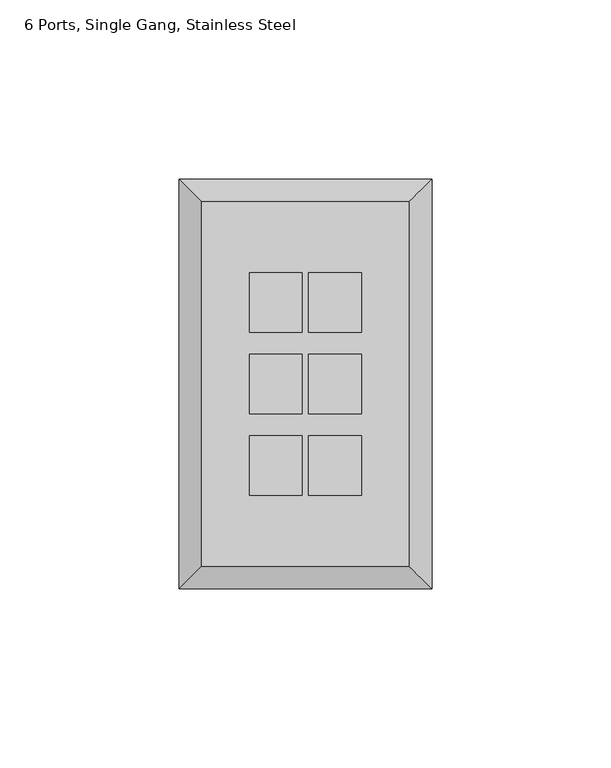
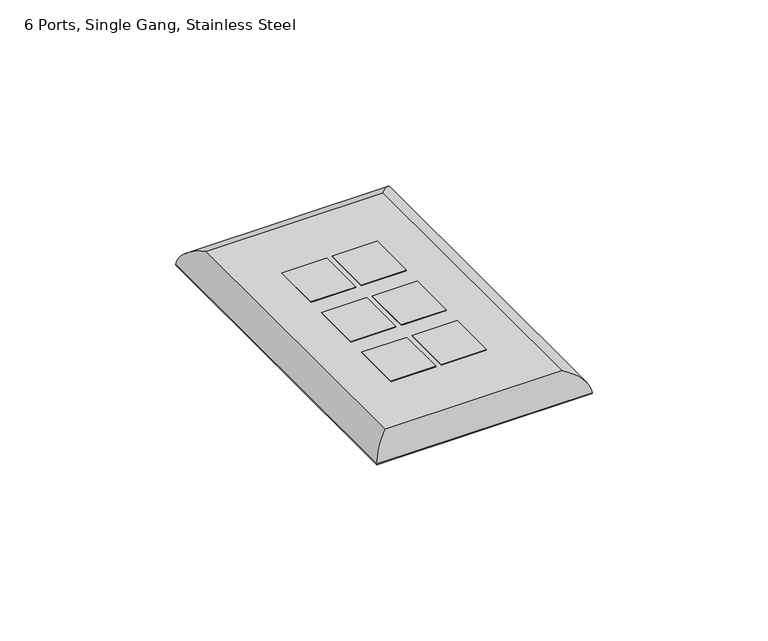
"""IFC4 building model written with IfcOpenShell, lengths in millimetres: electric appliance geometry, Data_Device-Work_Area-Leviton-QuickPort-Wallplate : 6 Ports, Single Gang, Stainless Steel."""

import ifcopenshell
import ifcopenshell.guid

model = None  # the IFC model being written
_history = None  # IfcOwnerHistory: only IFC2X3 demands one
_inside = {}  # id of a spatial element -> (the spatial element, [elements in it])
_under = {}  # id of a project, library or spatial element -> (it, [spatial elements below it])
_declared = {}  # id of a project -> (the project, [libraries it declares])
_typed = {}  # id of a type object -> (the type object, [elements of that type])
_made_of = {}  # id of a material, layer set ... -> (it, [elements and type objects made of it])


def new_model(schema):
    """Start an empty IFC model of exactly this schema.

    Asked for "IFC4X3", IfcOpenShell would pick the latest addendum, in which some entities
    have other attributes; the version numbers below select the first issue.
    IFC2X3 requires an IfcOwnerHistory on every rooted entity: one is made here for all.
    """
    global model, _history
    if schema == "IFC4X3":
        model = ifcopenshell.file(schema_version=(4, 3, 0, 0))
    else:
        model = ifcopenshell.file(schema=schema)
    _inside.clear()
    _under.clear()
    _declared.clear()
    _typed.clear()
    _made_of.clear()
    _history = None
    if model.schema == "IFC2X3":
        org = make("IfcOrganization", Name="unknown")
        user = make(
            "IfcPersonAndOrganization",
            ThePerson=make("IfcPerson", FamilyName="unknown"),
            TheOrganization=org,
        )
        app = make(
            "IfcApplication",
            ApplicationDeveloper=org,
            Version="unknown",
            ApplicationFullName="unknown",
            ApplicationIdentifier="unknown",
        )
        _history = make(
            "IfcOwnerHistory",
            OwningUser=user,
            OwningApplication=app,
            ChangeAction="ADDED",
            CreationDate=0,
        )
    return model


def make(cls, **values):
    """One entity of the class cls with the attributes given. An attribute that is None is left unset."""
    return model.create_entity(
        cls, **{name: value for name, value in values.items() if value is not None}
    )


def rooted(cls, **values):
    """An entity with a GlobalId (a new one), such as an element, a storey or a relation."""
    return make(cls, GlobalId=ifcopenshell.guid.new(), OwnerHistory=_history, **values)


def si_unit(unit_type, name, prefix=None):
    """IfcSIUnit, for example si_unit("LENGTHUNIT", "METRE", prefix="MILLI")."""
    return make("IfcSIUnit", UnitType=unit_type, Prefix=prefix, Name=name)


def assignment(units):
    """IfcUnitAssignment: the units of a project."""
    return None if units is None else make("IfcUnitAssignment", Units=units)


def point(xyz):
    """IfcCartesianPoint."""
    return None if xyz is None else make("IfcCartesianPoint", Coordinates=xyz)


def direction(xyz):
    """IfcDirection."""
    return None if xyz is None else make("IfcDirection", DirectionRatios=xyz)


def frame(location, z_axis=None, x_axis=None):
    """IfcAxis2Placement3D, a coordinate frame: its origin and axes. An axis left out is left unset."""
    return make(
        "IfcAxis2Placement3D",
        Location=point(location),
        Axis=direction(z_axis),
        RefDirection=direction(x_axis),
    )


def origin():
    """The frame at (0, 0, 0) with its axes left unset."""
    return frame((0.0, 0.0, 0.0))


def origin_with_axes():
    """The frame at (0, 0, 0) with the z axis (0, 0, 1) and the x axis (1, 0, 0) written out."""
    return frame((0.0, 0.0, 0.0), z_axis=(0.0, 0.0, 1.0), x_axis=(1.0, 0.0, 0.0))


def place(relative_to, where):
    """IfcLocalPlacement: puts the frame where relative to a parent placement (None: the world)."""
    return make(
        "IfcLocalPlacement", PlacementRelTo=relative_to, RelativePlacement=where
    )


def context(
    kind, dimensions, precision=None, world=None, true_north=None, identifier=None
):
    """IfcGeometricRepresentationContext, for example the 3D "Model" context."""
    return make(
        "IfcGeometricRepresentationContext",
        ContextIdentifier=identifier,
        ContextType=kind,
        CoordinateSpaceDimension=dimensions,
        Precision=precision,
        WorldCoordinateSystem=world,
        TrueNorth=true_north,
    )


def project(units=None, contexts=None):
    """IfcProject with its units and contexts."""
    return rooted(
        "IfcProject",
        Name="project",
        RepresentationContexts=contexts,
        UnitsInContext=assignment(units),
    )


def spatial(cls, under=None, at=None, **own):
    """A site, building, storey or space (cls), placed at a placement, below another one or the project."""
    s = rooted(cls, ObjectPlacement=at, **own)
    if under is not None:
        _under.setdefault(under.id(), (under, []))[1].append(s)
    return s


def polyline(points):
    """IfcPolyline through the points."""
    return make("IfcPolyline", Points=[point(p) for p in points])


def ellipse_curve(where, semi_axis1, semi_axis2):
    """IfcEllipse in the frame where."""
    return make(
        "IfcEllipse", Position=where, SemiAxis1=semi_axis1, SemiAxis2=semi_axis2
    )


def outline(outer, holes=None, kind="AREA"):
    """IfcArbitraryClosedProfileDef: a profile drawn as a closed curve; with holes, ...WithVoids."""
    if holes is None:
        return make("IfcArbitraryClosedProfileDef", ProfileType=kind, OuterCurve=outer)
    return make(
        "IfcArbitraryProfileDefWithVoids",
        ProfileType=kind,
        OuterCurve=outer,
        InnerCurves=holes,
    )


def extrude(swept, where, along, depth):
    """IfcExtrudedAreaSolid: the profile swept, set in the frame where, extruded along a direction by depth."""
    return make(
        "IfcExtrudedAreaSolid",
        SweptArea=swept,
        Position=where,
        ExtrudedDirection=direction(along),
        Depth=depth,
    )


def shape(context_of_items, identifier, shape_type, items):
    """IfcShapeRepresentation: the items that make up one representation, for example the "Body"."""
    return make(
        "IfcShapeRepresentation",
        ContextOfItems=context_of_items,
        RepresentationIdentifier=identifier,
        RepresentationType=shape_type,
        Items=items,
    )


def source(mapping_origin, context_of_items, identifier, shape_type, items):
    """IfcRepresentationMap: a shape defined once, which mapped items show again and again."""
    return make(
        "IfcRepresentationMap",
        MappingOrigin=mapping_origin,
        MappedRepresentation=shape(context_of_items, identifier, shape_type, items),
    )


def transform(
    local_origin,
    x_axis=None,
    y_axis=None,
    z_axis=None,
    scale=None,
    scale2=None,
    scale3=None,
    uniform=True,
):
    """IfcCartesianTransformationOperator3D, or its non-uniform kind. x_axis, y_axis, z_axis: its Axis1, 2, 3."""
    if uniform:
        return make(
            "IfcCartesianTransformationOperator3D",
            Axis1=direction(x_axis),
            Axis2=direction(y_axis),
            LocalOrigin=point(local_origin),
            Scale=scale,
            Axis3=direction(z_axis),
        )
    return make(
        "IfcCartesianTransformationOperator3DnonUniform",
        Axis1=direction(x_axis),
        Axis2=direction(y_axis),
        LocalOrigin=point(local_origin),
        Scale=scale,
        Axis3=direction(z_axis),
        Scale2=scale2,
        Scale3=scale3,
    )


def mapped(mapping_source, mapping_target):
    """IfcMappedItem: shows the shape of a source again, moved by a transform."""
    return make(
        "IfcMappedItem", MappingSource=mapping_source, MappingTarget=mapping_target
    )


def made_of(thing, what):
    """Note that an element or type object is made of a material, layer set ...; save() writes the relation."""
    if what is not None:
        _made_of.setdefault(what.id(), (what, []))[1].append(thing)
    return thing


def element(
    cls,
    number,
    at=None,
    inside=None,
    cuts=None,
    type_object=None,
    material=None,
    context=None,
    identifier="Body",
    shape_type=None,
    held_by="IfcProductDefinitionShape",
    body=None,
    shapes=None,
    **own,
):
    """One element of the class cls, such as IfcWall. Its Tag is "e" and its number.

    at: its placement. inside: the storey or other place that contains it. cuts: it is an
    opening in that element (IfcRelVoidsElement). A single representation is given by context,
    identifier, shape_type and body (its items); several are given by shapes. held_by: the class
    of the entity that holds the representations. save() writes the other relations.
    """
    e = rooted(cls, Tag="e%d" % number, ObjectPlacement=at, **own)
    if body is not None:
        shapes = [shape(context, identifier, shape_type, body)]
    if shapes is not None:
        e.Representation = make(held_by, Representations=shapes)
    if inside is not None:
        _inside.setdefault(inside.id(), (inside, []))[1].append(e)
    if cuts is not None:
        rooted(
            "IfcRelVoidsElement", RelatingBuildingElement=cuts, RelatedOpeningElement=e
        )
    if type_object is not None:
        _typed.setdefault(type_object.id(), (type_object, []))[1].append(e)
    return made_of(e, material)


def aggregate(whole, parts):
    """IfcRelAggregates: a whole, such as a stair, and the parts it consists of."""
    return rooted("IfcRelAggregates", RelatingObject=whole, RelatedObjects=parts)


def save(model, path):
    """Write the relations noted so far, then the file.

    IfcRelAggregates (storeys below a building ...), IfcRelContainedInSpatialStructure (elements
    in a storey), IfcRelDefinesByType, IfcRelAssociatesMaterial and IfcRelDeclares: one each for
    every whole, place, type object, material and project.
    """
    for whole, parts in _under.values():
        aggregate(whole, parts)
    for where, things in _inside.values():
        rooted(
            "IfcRelContainedInSpatialStructure",
            RelatedElements=things,
            RelatingStructure=where,
        )
    for kind, things in _typed.values():
        rooted("IfcRelDefinesByType", RelatedObjects=things, RelatingType=kind)
    for what, things in _made_of.values():
        rooted("IfcRelAssociatesMaterial", RelatedObjects=things, RelatingMaterial=what)
    for by, libraries in _declared.values():
        rooted("IfcRelDeclares", RelatingContext=by, RelatedDefinitions=libraries)
    model.write(path)


def plane_surface(at):
    """IfcPlane: the flat surface through the origin of the frame at, square to its z axis."""
    return make("IfcPlane", Position=at)


def cylinder_surface(at, radius):
    """IfcCylindricalSurface: all points at the distance radius from the z axis of the frame at."""
    return make("IfcCylindricalSurface", Position=at, Radius=radius)


def advanced_brep(points, edges, surfaces, faces):
    """IfcAdvancedBrep: a solid bounded by faces that lie on surfaces and meet in shared edges.

    An edge is (start, end): straight between two places in points (the first is 0);
    or (start, end, curve); or (start, end, curve, False) where it runs against its curve.
    A face is (place in surfaces, loops), or (place, loops, False) where it looks against
    its surface's normal. A loop lists edges by number (the first is 1), with a minus sign
    where the edge is run from its end to its start. The first loop is the outer one.
    """
    corners = [point(p) for p in points]
    vertices = [make("IfcVertexPoint", VertexGeometry=c) for c in corners]
    made = []
    for start, end, *more in edges:
        made.append(
            make(
                "IfcEdgeCurve",
                EdgeStart=vertices[start],
                EdgeEnd=vertices[end],
                EdgeGeometry=more[0] if more else make("IfcPolyline", Points=[corners[start], corners[end]]),
                SameSense=more[1] if len(more) > 1 else True,
            )
        )
    hull = []
    for where, loops, *sense in faces:
        bounds = []
        for j, loop in enumerate(loops):
            ring = [make("IfcOrientedEdge", EdgeElement=made[abs(k) - 1], Orientation=k > 0) for k in loop]
            bounds.append(
                make(
                    "IfcFaceOuterBound" if j == 0 else "IfcFaceBound",
                    Bound=make("IfcEdgeLoop", EdgeList=ring),
                    Orientation=True,
                )
            )
        hull.append(make("IfcAdvancedFace", Bounds=bounds, FaceSurface=surfaces[where], SameSense=sense[0] if sense else True))
    return make("IfcAdvancedBrep", Outer=make("IfcClosedShell", CfsFaces=hull))


def electric_appliance_6_ports_single_gang_stainless_steel_5ba1de0b(model_context):
    return source(origin(), model_context, "Body", "SolidModel", [
        extrude(outline(polyline([(-23.9268, 16.4465), (-23.9268, -0.0635), (-38.6588, -0.0635), (-38.6588, 16.4465), (-23.9268, 16.4465)])), origin_with_axes(), (0.0, 0.0, 1.0), 6.35),
        extrude(outline(polyline([(-23.9268, 39.1795), (-23.9268, 22.6695), (-38.6588, 22.6695), (-38.6588, 39.1795), (-23.9268, 39.1795)])), origin_with_axes(), (0.0, 0.0, 1.0), 6.35),
        extrude(outline(polyline([(-23.9268, -6.2865), (-23.9268, -22.7965), (-38.6588, -22.7965), (-38.6588, -6.2865), (-23.9268, -6.2865)])), origin_with_axes(), (0.0, 0.0, 1.0), 6.35),
        extrude(outline(polyline([(-7.3914, 16.4465), (-7.3914, -0.0635), (-22.1234, -0.0635), (-22.1234, 16.4465), (-7.3914, 16.4465)])), origin_with_axes(), (0.0, 0.0, 1.0), 6.35),
        extrude(outline(polyline([(-7.3914, 39.1795), (-7.3914, 22.6695), (-22.1234, 22.6695), (-22.1234, 39.1795), (-7.3914, 39.1795)])), origin_with_axes(), (0.0, 0.0, 1.0), 6.35),
        extrude(outline(polyline([(-7.3914, -6.2865), (-7.3914, -22.7965), (-22.1234, -22.7965), (-22.1234, -6.2865), (-7.3914, -6.2865)])), origin_with_axes(), (0.0, 0.0, 1.0), 6.35),
        advanced_brep(
        [(5.9309, -42.6085, 6.35), (5.9309, 58.9915, 6.35), (-51.9811, 58.9915, 6.35), (-51.9811, -42.6085, 6.35), (-38.6588, 39.1795, 6.35), (-23.9268, 39.1795, 6.35), (-23.9268, 22.6695, 6.35), (-38.6588, 22.6695, 6.35), (-38.6588, 16.4465, 6.35), (-23.9268, 16.4465, 6.35), (-23.9268, -0.0635, 6.35), (-38.6588, -0.0635, 6.35), (-38.6588, -6.2865, 6.35), (-23.9268, -6.2865, 6.35), (-23.9268, -22.7965, 6.35), (-38.6588, -22.7965, 6.35), (-22.1234, 39.1795, 6.35), (-7.3914, 39.1795, 6.35), (-7.3914, 22.6695, 6.35), (-22.1234, 22.6695, 6.35), (-22.1234, 16.4465, 6.35), (-7.3914, 16.4465, 6.35), (-7.3914, -0.0635, 6.35), (-22.1234, -0.0635, 6.35), (-22.1234, -6.2865, 6.35), (-7.3914, -6.2865, 6.35), (-7.3914, -22.7965, 6.35), (-22.1234, -22.7965, 6.35), (12.2809, 65.3415, 0.0), (12.2809, -48.9585, 0.0), (-58.3311, -48.9585, 0.0), (-58.3311, 65.3415, 0.0), (-23.9268, 39.1795, 0.0), (-38.6588, 39.1795, 0.0), (-38.6588, 22.6695, 0.0), (-23.9268, 22.6695, 0.0), (-23.9268, 16.4465, 0.0), (-38.6588, 16.4465, 0.0), (-38.6588, -0.0635, 0.0), (-23.9268, -0.0635, 0.0), (-23.9268, -6.2865, 0.0), (-38.6588, -6.2865, 0.0), (-38.6588, -22.7965, 0.0), (-23.9268, -22.7965, 0.0), (-7.3914, 39.1795, 0.0), (-22.1234, 39.1795, 0.0), (-22.1234, 22.6695, 0.0), (-7.3914, 22.6695, 0.0), (-7.3914, 16.4465, 0.0), (-22.1234, 16.4465, 0.0), (-22.1234, -0.0635, 0.0), (-7.3914, -0.0635, 0.0), (-7.3914, -6.2865, 0.0), (-22.1234, -6.2865, 0.0), (-22.1234, -22.7965, 0.0), (-7.3914, -22.7965, 0.0), (-58.3311, 65.3415, 0.254), (12.2809, 65.3415, 0.254), (-58.3311, -48.9585, 0.254), (12.2809, -48.9585, 0.254)],
        [
            (0, 1),
            (1, 2),
            (2, 3),
            (3, 0),
            (4, 5),
            (5, 6),
            (6, 7),
            (7, 4),
            (8, 9),
            (9, 10),
            (10, 11),
            (11, 8),
            (12, 13),
            (13, 14),
            (14, 15),
            (15, 12),
            (16, 17),
            (17, 18),
            (18, 19),
            (19, 16),
            (20, 21),
            (21, 22),
            (22, 23),
            (23, 20),
            (24, 25),
            (25, 26),
            (26, 27),
            (27, 24),
            (28, 29),
            (29, 30),
            (30, 31),
            (31, 28),
            (32, 33),
            (33, 34),
            (34, 35),
            (35, 32),
            (36, 37),
            (37, 38),
            (38, 39),
            (39, 36),
            (40, 41),
            (41, 42),
            (42, 43),
            (43, 40),
            (44, 45),
            (45, 46),
            (46, 47),
            (47, 44),
            (48, 49),
            (49, 50),
            (50, 51),
            (51, 48),
            (52, 53),
            (53, 54),
            (54, 55),
            (55, 52),
            (31, 56),
            (56, 57),
            (57, 28),
            (30, 58),
            (58, 56),
            (29, 59),
            (59, 58),
            (57, 59),
            (4, 33),
            (32, 5),
            (7, 34),
            (6, 35),
            (8, 37),
            (36, 9),
            (11, 38),
            (10, 39),
            (12, 41),
            (40, 13),
            (15, 42),
            (14, 43),
            (16, 45),
            (44, 17),
            (19, 46),
            (18, 47),
            (20, 49),
            (48, 21),
            (23, 50),
            (22, 51),
            (24, 53),
            (52, 25),
            (27, 54),
            (26, 55),
            (0, 59, ellipse_curve(frame((5.9309, -42.6085, -0.0052917), z_axis=(0.7071067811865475, 0.7071067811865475, 0.0), x_axis=(0.7071067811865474, -0.7071067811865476, 0.0)), 8.9877397, 6.3552917)),
            (57, 1, ellipse_curve(frame((5.9309, 58.9915, -0.0052917), z_axis=(0.7071067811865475, -0.7071067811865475, 0.0), x_axis=(-0.7071067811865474, -0.7071067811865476, 0.0)), 8.9877397, 6.3552917)),
            (3, 58, ellipse_curve(frame((-51.9811, -42.6085, -0.0052917), z_axis=(0.7071067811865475, -0.7071067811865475, 0.0), x_axis=(-0.7071067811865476, -0.7071067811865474, 0.0)), 8.9877397, 6.3552917)),
            (2, 56, ellipse_curve(frame((-51.9811, 58.9915, -0.0052917), z_axis=(-0.7071067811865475, -0.7071067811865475, 0.0), x_axis=(-0.7071067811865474, 0.7071067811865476, 0.0)), 8.9877397, 6.3552917)),
        ],
        [
            plane_surface(frame((-58.3311, 65.3415, 6.35), z_axis=(0.0, 0.0, 1.0), x_axis=(-1.0, 0.0, 0.0))),
            plane_surface(frame((-58.3311, 65.3415, 0.0), z_axis=(0.0, 0.0, -1.0), x_axis=(1.0, 0.0, 0.0))),
            plane_surface(frame((12.2809, 65.3415, 6.35), z_axis=(0.0, 1.0, 0.0), x_axis=(0.0, 0.0, -1.0))),
            plane_surface(frame((-58.3311, 65.3415, 6.35), z_axis=(-1.0, 0.0, 0.0), x_axis=(0.0, 0.0, -1.0))),
            plane_surface(frame((-58.3311, -48.9585, 6.35), z_axis=(0.0, -1.0, 0.0), x_axis=(0.0, 0.0, -1.0))),
            plane_surface(frame((12.2809, -48.9585, 6.35), z_axis=(1.0, 0.0, 0.0), x_axis=(0.0, 0.0, -1.0))),
            plane_surface(frame((-23.9268, 39.1795, 6.35), z_axis=(0.0, -1.0, 0.0), x_axis=(0.0, 0.0, -1.0))),
            plane_surface(frame((-38.6588, 39.1795, 6.35), z_axis=(1.0, 0.0, 0.0), x_axis=(0.0, 0.0, -1.0))),
            plane_surface(frame((-38.6588, 22.6695, 6.35), z_axis=(0.0, 1.0, 0.0), x_axis=(0.0, 0.0, -1.0))),
            plane_surface(frame((-23.9268, 22.6695, 6.35), z_axis=(-1.0, 0.0, 0.0), x_axis=(0.0, 0.0, -1.0))),
            plane_surface(frame((-23.9268, 16.4465, 6.35), z_axis=(0.0, -1.0, 0.0), x_axis=(0.0, 0.0, -1.0))),
            plane_surface(frame((-38.6588, 16.4465, 6.35), z_axis=(1.0, 0.0, 0.0), x_axis=(0.0, 0.0, -1.0))),
            plane_surface(frame((-38.6588, -0.0635, 6.35), z_axis=(0.0, 1.0, 0.0), x_axis=(0.0, 0.0, -1.0))),
            plane_surface(frame((-23.9268, -0.0635, 6.35), z_axis=(-1.0, 0.0, 0.0), x_axis=(0.0, 0.0, -1.0))),
            plane_surface(frame((-23.9268, -6.2865, 6.35), z_axis=(0.0, -1.0, 0.0), x_axis=(0.0, 0.0, -1.0))),
            plane_surface(frame((-38.6588, -6.2865, 6.35), z_axis=(1.0, 0.0, 0.0), x_axis=(0.0, 0.0, -1.0))),
            plane_surface(frame((-38.6588, -22.7965, 6.35), z_axis=(0.0, 1.0, 0.0), x_axis=(0.0, 0.0, -1.0))),
            plane_surface(frame((-23.9268, -22.7965, 6.35), z_axis=(-1.0, 0.0, 0.0), x_axis=(0.0, 0.0, -1.0))),
            plane_surface(frame((-7.3914, 39.1795, 6.35), z_axis=(0.0, -1.0, 0.0), x_axis=(0.0, 0.0, -1.0))),
            plane_surface(frame((-22.1234, 39.1795, 6.35), z_axis=(1.0, 0.0, 0.0), x_axis=(0.0, 0.0, -1.0))),
            plane_surface(frame((-22.1234, 22.6695, 6.35), z_axis=(0.0, 1.0, 0.0), x_axis=(0.0, 0.0, -1.0))),
            plane_surface(frame((-7.3914, 22.6695, 6.35), z_axis=(-1.0, 0.0, 0.0), x_axis=(0.0, 0.0, -1.0))),
            plane_surface(frame((-7.3914, 16.4465, 6.35), z_axis=(0.0, -1.0, 0.0), x_axis=(0.0, 0.0, -1.0))),
            plane_surface(frame((-22.1234, 16.4465, 6.35), z_axis=(1.0, 0.0, 0.0), x_axis=(0.0, 0.0, -1.0))),
            plane_surface(frame((-22.1234, -0.0635, 6.35), z_axis=(0.0, 1.0, 0.0), x_axis=(0.0, 0.0, -1.0))),
            plane_surface(frame((-7.3914, -0.0635, 6.35), z_axis=(-1.0, 0.0, 0.0), x_axis=(0.0, 0.0, -1.0))),
            plane_surface(frame((-7.3914, -6.2865, 6.35), z_axis=(0.0, -1.0, 0.0), x_axis=(0.0, 0.0, -1.0))),
            plane_surface(frame((-22.1234, -6.2865, 6.35), z_axis=(1.0, 0.0, 0.0), x_axis=(0.0, 0.0, -1.0))),
            plane_surface(frame((-22.1234, -22.7965, 6.35), z_axis=(0.0, 1.0, 0.0), x_axis=(0.0, 0.0, -1.0))),
            plane_surface(frame((-7.3914, -22.7965, 6.35), z_axis=(-1.0, 0.0, 0.0), x_axis=(0.0, 0.0, -1.0))),
            cylinder_surface(frame((5.9309, 65.3415, -0.0052917), z_axis=(0.0, -1.0, 0.0), x_axis=(1.0, 0.0, 0.0)), 6.3552917),
            cylinder_surface(frame((12.2809, -42.6085, -0.0052917), z_axis=(-1.0, 0.0, 0.0), x_axis=(0.0, -1.0, 0.0)), 6.3552917),
            cylinder_surface(frame((-51.9811, -48.9585, -0.0052917), z_axis=(0.0, 1.0, 0.0), x_axis=(-1.0, 0.0, 0.0)), 6.3552917),
            cylinder_surface(frame((-58.3311, 58.9915, -0.0052917), z_axis=(1.0, 0.0, 0.0), x_axis=(0.0, 1.0, 0.0)), 6.3552917),
        ],
        [
            (0, [[1, 2, 3, 4], [5, 6, 7, 8], [9, 10, 11, 12], [13, 14, 15, 16], [17, 18, 19, 20], [21, 22, 23, 24], [25, 26, 27, 28]]),
            (1, [[29, 30, 31, 32], [33, 34, 35, 36], [37, 38, 39, 40], [41, 42, 43, 44], [45, 46, 47, 48], [49, 50, 51, 52], [53, 54, 55, 56]]),
            (2, [[-32, 57, 58, 59]]),
            (3, [[-31, 60, 61, -57]]),
            (4, [[-30, 62, 63, -60]]),
            (5, [[-29, -59, 64, -62]]),
            (6, [[65, -33, 66, -5]]),
            (7, [[-65, -8, 67, -34]]),
            (8, [[-67, -7, 68, -35]]),
            (9, [[-66, -36, -68, -6]]),
            (10, [[69, -37, 70, -9]]),
            (11, [[-69, -12, 71, -38]]),
            (12, [[-71, -11, 72, -39]]),
            (13, [[-70, -40, -72, -10]]),
            (14, [[73, -41, 74, -13]]),
            (15, [[-73, -16, 75, -42]]),
            (16, [[-75, -15, 76, -43]]),
            (17, [[-74, -44, -76, -14]]),
            (18, [[77, -45, 78, -17]]),
            (19, [[-77, -20, 79, -46]]),
            (20, [[-79, -19, 80, -47]]),
            (21, [[-78, -48, -80, -18]]),
            (22, [[81, -49, 82, -21]]),
            (23, [[-81, -24, 83, -50]]),
            (24, [[-83, -23, 84, -51]]),
            (25, [[-82, -52, -84, -22]]),
            (26, [[85, -53, 86, -25]]),
            (27, [[-85, -28, 87, -54]]),
            (28, [[-87, -27, 88, -55]]),
            (29, [[-86, -56, -88, -26]]),
            (30, [[89, -64, 90, -1]]),
            (31, [[-89, -4, 91, -63]]),
            (32, [[-91, -3, 92, -61]]),
            (33, [[-90, -58, -92, -2]]),
        ],
    ),
        extrude(outline(polyline([(12.0269, 65.0875), (12.0269, -48.7045), (-58.0771, -48.7045), (-58.0771, 65.0875), (12.0269, 65.0875)]), holes=[polyline([(-23.9268, 39.1795), (-38.6588, 39.1795), (-38.6588, 22.6695), (-23.9268, 22.6695), (-23.9268, 39.1795)]), polyline([(-23.9268, 16.4465), (-38.6588, 16.4465), (-38.6588, -0.0635), (-23.9268, -0.0635), (-23.9268, 16.4465)]), polyline([(-23.9268, -6.2865), (-38.6588, -6.2865), (-38.6588, -22.7965), (-23.9268, -22.7965), (-23.9268, -6.2865)]), polyline([(-7.3914, 39.1795), (-22.1234, 39.1795), (-22.1234, 22.6695), (-7.3914, 22.6695), (-7.3914, 39.1795)]), polyline([(-7.3914, 16.4465), (-22.1234, 16.4465), (-22.1234, -0.0635), (-7.3914, -0.0635), (-7.3914, 16.4465)]), polyline([(-7.3914, -6.2865), (-22.1234, -6.2865), (-22.1234, -22.7965), (-7.3914, -22.7965), (-7.3914, -6.2865)])]), origin_with_axes(), (0.0, 0.0, 1.0), 0.254),
    ])


if __name__ == "__main__":
    model = new_model("IFC4")
    model_context = context("Model", 3, world=origin())
    ifc_project = project(units=[si_unit("LENGTHUNIT", "METRE", prefix="MILLI")], contexts=[model_context])
    site = spatial("IfcSite", under=ifc_project)
    building = spatial("IfcBuilding", under=site)
    placement = place(None, origin())
    electric_appliance_6_ports_single_gang_stainless_steel_shape = electric_appliance_6_ports_single_gang_stainless_steel_5ba1de0b(model_context)
    element("IfcElectricAppliance", 1, ObjectType="Data_Device-Work_Area-Leviton-QuickPort-Wallplate : 6 Ports, Single Gang, Stainless Steel", at=placement, inside=building, context=model_context, shape_type="MappedRepresentation", body=[
        mapped(electric_appliance_6_ports_single_gang_stainless_steel_shape, transform((0.0, 0.0, 0.0), x_axis=(1.0, 0.0, 0.0), y_axis=(0.0, 1.0, 0.0), z_axis=(0.0, 0.0, 1.0))),
    ])
    save(model, "model.ifc")
